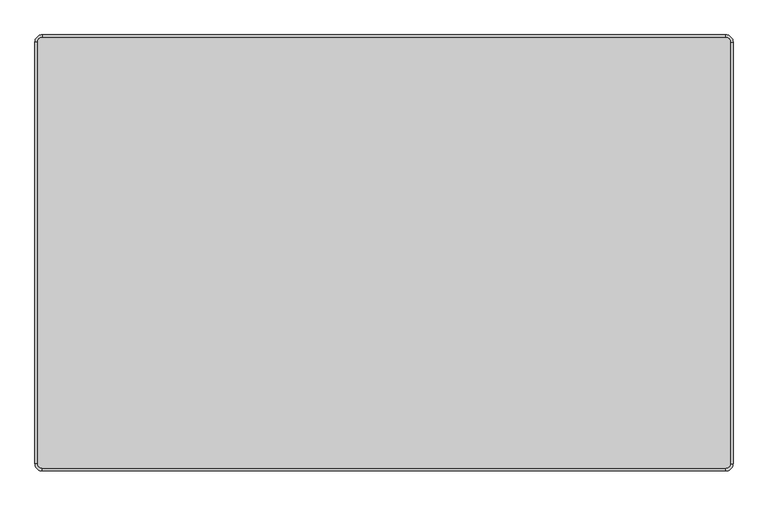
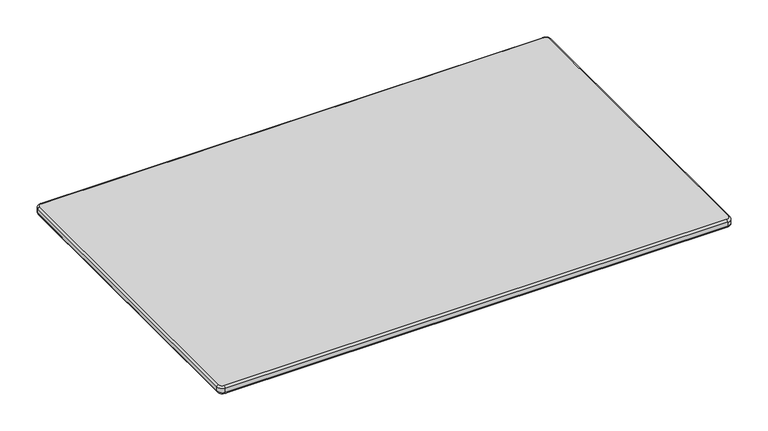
"""IFC4 building model written with IfcOpenShell, lengths in millimetres: furniture geometry, SSL-Childcraft_Outdoor-Table-Rectangle : 2161354."""

from ifc_helpers import new_model, si_unit, point, frame, origin, place, context, project, spatial, circle_curve, ellipse_curve, trimmed, source, transform, mapped, element, save
from ifc_brep_helpers import plane_surface, cylinder_surface, revolved_surface, advanced_brep


def furniture_69e445c5(model_context):
    return source(origin(), model_context, "Body", "AdvancedBrep", [
        advanced_brep(
        [(604.8375, 368.3, 508.0), (596.9, 376.2375, 508.0), (-596.9, 376.2375, 508.0), (-604.8375, 368.3, 508.0), (-604.8375, -368.3, 508.0), (-596.9, -376.2375, 508.0), (596.9, -376.2375, 508.0), (604.8375, -368.3, 508.0), (596.9, 376.2375, 488.95), (604.8375, 368.3, 488.95), (604.8375, -368.3, 488.95), (596.9, -376.2375, 488.95), (-596.9, -376.2375, 488.95), (-604.8375, -368.3, 488.95), (-604.8375, 368.3, 488.95), (-596.9, 376.2375, 488.95), (609.6, 368.3, 493.7125), (609.6, 368.3, 503.2375), (609.6, -368.3, 503.2375), (609.6, -368.3, 493.7125), (596.9, -381.0, 493.7125), (596.9, -381.0, 503.2375), (-596.9, -381.0, 503.2375), (-596.9, -381.0, 493.7125), (-609.6, -368.3, 503.2375), (-609.6, -368.3, 493.7125), (-609.6, 368.3, 503.2375), (-609.6, 368.3, 493.7125), (-596.9, 381.0, 493.7125), (-596.9, 381.0, 503.2375), (596.9, 381.0, 503.2375), (596.9, 381.0, 493.7125)],
        [
            (0, 1, circle_curve(frame((596.9, 368.3, 508.0), z_axis=(0.0, 0.0, 1.0), x_axis=(0.0, 1.0, 0.0)), 7.9375)),
            (1, 2),
            (2, 3, circle_curve(frame((-596.9, 368.3, 508.0), z_axis=(0.0, 0.0, 1.0), x_axis=(-1.0, 0.0, 0.0)), 7.9375)),
            (3, 4),
            (4, 5, circle_curve(frame((-596.9, -368.3, 508.0), z_axis=(0.0, 0.0, 1.0), x_axis=(0.0, -1.0, 0.0)), 7.9375)),
            (5, 6),
            (6, 7, circle_curve(frame((596.9, -368.3, 508.0), z_axis=(0.0, 0.0, 1.0), x_axis=(1.0, 0.0, 0.0)), 7.9375)),
            (7, 0),
            (8, 9, circle_curve(frame((596.9, 368.3, 488.95), z_axis=(0.0, 0.0, -1.0), x_axis=(0.0, 1.0, 0.0)), 7.9375)),
            (9, 10),
            (10, 11, circle_curve(frame((596.9, -368.3, 488.95), z_axis=(0.0, 0.0, -1.0), x_axis=(1.0, 0.0, 0.0)), 7.9375)),
            (11, 12),
            (12, 13, circle_curve(frame((-596.9, -368.3, 488.95), z_axis=(0.0, 0.0, -1.0), x_axis=(0.0, -1.0, 0.0)), 7.9375)),
            (13, 14),
            (14, 15, circle_curve(frame((-596.9, 368.3, 488.95), z_axis=(0.0, 0.0, -1.0), x_axis=(-1.0, 0.0, 0.0)), 7.9375)),
            (15, 8),
            (16, 17),
            (17, 18),
            (18, 19),
            (19, 16),
            (20, 21),
            (21, 22),
            (22, 23),
            (23, 20),
            (22, 24, circle_curve(frame((-596.9, -368.3, 503.2375), z_axis=(0.0, 0.0, -1.0), x_axis=(0.0, -1.0, 0.0)), 12.7)),
            (24, 25),
            (25, 23, circle_curve(frame((-596.9, -368.3, 493.7125), z_axis=(0.0, 0.0, 1.0), x_axis=(0.0, -1.0, 0.0)), 12.7)),
            (24, 26),
            (26, 27),
            (27, 25),
            (28, 29),
            (29, 30),
            (30, 31),
            (31, 28),
            (17, 30, circle_curve(frame((596.9, 368.3, 503.2375), z_axis=(0.0, 0.0, 1.0), x_axis=(0.0, 1.0, 0.0)), 12.7)),
            (30, 1, circle_curve(frame((596.9, 376.2375, 503.2375), z_axis=(1.0, 0.0, 0.0), x_axis=(0.0, 1.0, 0.0)), 4.7625)),
            (0, 17, circle_curve(frame((604.8375, 368.3, 503.2375), z_axis=(0.0, 1.0, 0.0), x_axis=(1.0, 0.0, 0.0)), 4.7625)),
            (16, 31, circle_curve(frame((596.9, 368.3, 493.7125), z_axis=(0.0, 0.0, 1.0), x_axis=(0.0, 1.0, 0.0)), 12.7)),
            (16, 9, circle_curve(frame((604.8375, 368.3, 493.7125), z_axis=(0.0, 1.0, 0.0), x_axis=(1.0, 0.0, 0.0)), 4.7625)),
            (8, 31, circle_curve(frame((596.9, 376.2375, 493.7125), z_axis=(1.0, 0.0, 0.0), x_axis=(0.0, 1.0, 0.0)), 4.7625)),
            (7, 18, circle_curve(frame((604.8375, -368.3, 503.2375), z_axis=(0.0, 1.0, 0.0), x_axis=(1.0, 0.0, 0.0)), 4.7625)),
            (19, 10, circle_curve(frame((604.8375, -368.3, 493.7125), z_axis=(0.0, 1.0, 0.0), x_axis=(1.0, 0.0, 0.0)), 4.7625)),
            (6, 21, circle_curve(frame((596.9, -376.2375, 503.2375), z_axis=(1.0, 0.0, 0.0), x_axis=(0.0, -1.0, 0.0)), 4.7625)),
            (21, 18, circle_curve(frame((596.9, -368.3, 503.2375), z_axis=(0.0, 0.0, 1.0), x_axis=(1.0, 0.0, 0.0)), 12.7)),
            (20, 19, circle_curve(frame((596.9, -368.3, 493.7125), z_axis=(0.0, 0.0, 1.0), x_axis=(1.0, 0.0, 0.0)), 12.7)),
            (20, 11, circle_curve(frame((596.9, -376.2375, 493.7125), z_axis=(1.0, 0.0, 0.0), x_axis=(0.0, -1.0, 0.0)), 4.7625)),
            (5, 22, circle_curve(frame((-596.9, -376.2375, 503.2375), z_axis=(1.0, 0.0, 0.0), x_axis=(0.0, -1.0, 0.0)), 4.7625)),
            (23, 12, circle_curve(frame((-596.9, -376.2375, 493.7125), z_axis=(1.0, 0.0, 0.0), x_axis=(0.0, -1.0, 0.0)), 4.7625)),
            (4, 24, circle_curve(frame((-604.8375, -368.3, 503.2375), z_axis=(0.0, -1.0, 0.0), x_axis=(-1.0, 0.0, 0.0)), 4.7625)),
            (25, 13, circle_curve(frame((-604.8375, -368.3, 493.7125), z_axis=(0.0, -1.0, 0.0), x_axis=(-1.0, 0.0, 0.0)), 4.7625)),
            (3, 26, circle_curve(frame((-604.8375, 368.3, 503.2375), z_axis=(0.0, -1.0, 0.0), x_axis=(-1.0, 0.0, 0.0)), 4.7625)),
            (27, 14, circle_curve(frame((-604.8375, 368.3, 493.7125), z_axis=(0.0, -1.0, 0.0), x_axis=(-1.0, 0.0, 0.0)), 4.7625)),
            (2, 29, circle_curve(frame((-596.9, 376.2375, 503.2375), z_axis=(-1.0, 0.0, 0.0), x_axis=(0.0, 1.0, 0.0)), 4.7625)),
            (29, 26, circle_curve(frame((-596.9, 368.3, 503.2375), z_axis=(0.0, 0.0, 1.0), x_axis=(-1.0, 0.0, 0.0)), 12.7)),
            (28, 27, circle_curve(frame((-596.9, 368.3, 493.7125), z_axis=(0.0, 0.0, 1.0), x_axis=(-1.0, 0.0, 0.0)), 12.7)),
            (28, 15, circle_curve(frame((-596.9, 376.2375, 493.7125), z_axis=(-1.0, 0.0, 0.0), x_axis=(0.0, 1.0, 0.0)), 4.7625)),
        ],
        [
            plane_surface(frame((-596.9, 371.475, 508.0), z_axis=(0.0, 0.0, 1.0), x_axis=(-1.0, 0.0, 0.0))),
            plane_surface(frame((-596.9, 371.475, 488.95), z_axis=(0.0, 0.0, -1.0), x_axis=(1.0, 0.0, 0.0))),
            plane_surface(frame((609.6, 368.3, 503.2375), z_axis=(1.0, 0.0, 0.0), x_axis=(0.0, -1.0, 0.0))),
            plane_surface(frame((596.9, -381.0, 503.2375), z_axis=(0.0, -1.0, 0.0), x_axis=(-1.0, 0.0, 0.0))),
            cylinder_surface(frame((-596.9, -368.3, 0.0), z_axis=(0.0, 0.0, -1.0), x_axis=(0.0, -1.0, 0.0)), 12.7),
            plane_surface(frame((-609.6, -368.3, 503.2375), z_axis=(-1.0, 0.0, 0.0), x_axis=(0.0, 1.0, 0.0))),
            plane_surface(frame((-596.9, 381.0, 503.2375), z_axis=(0.0, 1.0, 0.0), x_axis=(1.0, 0.0, 0.0))),
            revolved_surface(trimmed(ellipse_curve(frame((596.9, 376.2375, 503.2375), z_axis=(-1.0, 0.0, 0.0), x_axis=(0.0, 1.0, 0.0)), 4.7625, 4.7625), [point((596.9, 376.2375, 508.0))], [point((596.9, 381.0, 503.2375))], True, "CARTESIAN"), (596.9, 368.3, 0.0), (0.0, 0.0, -1.0)),
            cylinder_surface(frame((596.9, 368.3, 0.0), z_axis=(0.0, 0.0, -1.0), x_axis=(0.0, 1.0, 0.0)), 12.7),
            revolved_surface(trimmed(ellipse_curve(frame((596.9, 376.2375, 493.7125), z_axis=(-1.0, 0.0, 0.0), x_axis=(0.0, 1.0, 0.0)), 4.7625, 4.7625), [point((596.9, 381.0, 493.7125))], [point((596.9, 376.2375, 488.95))], True, "CARTESIAN"), (596.9, 368.3, 0.0), (0.0, 0.0, -1.0)),
            cylinder_surface(frame((604.8375, 368.3, 503.2375), z_axis=(0.0, 1.0, 0.0), x_axis=(1.0, 0.0, 0.0)), 4.7625),
            cylinder_surface(frame((604.8375, 368.3, 493.7125), z_axis=(0.0, 1.0, 0.0), x_axis=(1.0, 0.0, 0.0)), 4.7625),
            revolved_surface(trimmed(ellipse_curve(frame((604.8375, -368.3, 503.2375), z_axis=(0.0, 1.0, 0.0), x_axis=(1.0, 0.0, 0.0)), 4.7625, 4.7625), [point((604.8375, -368.3, 508.0))], [point((609.6, -368.3, 503.2375))], True, "CARTESIAN"), (596.9, -368.3, 0.0), (0.0, 0.0, -1.0)),
            cylinder_surface(frame((596.9, -368.3, 0.0), z_axis=(0.0, 0.0, -1.0), x_axis=(1.0, 0.0, 0.0)), 12.7),
            revolved_surface(trimmed(ellipse_curve(frame((604.8375, -368.3, 493.7125), z_axis=(0.0, 1.0, 0.0), x_axis=(1.0, 0.0, 0.0)), 4.7625, 4.7625), [point((609.6, -368.3, 493.7125))], [point((604.8375, -368.3, 488.95))], True, "CARTESIAN"), (596.9, -368.3, 0.0), (0.0, 0.0, -1.0)),
            cylinder_surface(frame((596.9, -376.2375, 503.2375), z_axis=(1.0, 0.0, 0.0), x_axis=(0.0, -1.0, 0.0)), 4.7625),
            cylinder_surface(frame((596.9, -376.2375, 493.7125), z_axis=(1.0, 0.0, 0.0), x_axis=(0.0, -1.0, 0.0)), 4.7625),
            revolved_surface(trimmed(ellipse_curve(frame((-596.9, -376.2375, 503.2375), z_axis=(1.0, 0.0, 0.0), x_axis=(0.0, -1.0, 0.0)), 4.7625, 4.7625), [point((-596.9, -376.2375, 508.0))], [point((-596.9, -381.0, 503.2375))], True, "CARTESIAN"), (-596.9, -368.3, 0.0), (0.0, 0.0, -1.0)),
            revolved_surface(trimmed(ellipse_curve(frame((-596.9, -376.2375, 493.7125), z_axis=(1.0, 0.0, 0.0), x_axis=(0.0, -1.0, 0.0)), 4.7625, 4.7625), [point((-596.9, -381.0, 493.7125))], [point((-596.9, -376.2375, 488.95))], True, "CARTESIAN"), (-596.9, -368.3, 0.0), (0.0, 0.0, -1.0)),
            cylinder_surface(frame((-604.8375, -368.3, 503.2375), z_axis=(0.0, -1.0, 0.0), x_axis=(-1.0, 0.0, 0.0)), 4.7625),
            cylinder_surface(frame((-604.8375, -368.3, 493.7125), z_axis=(0.0, -1.0, 0.0), x_axis=(-1.0, 0.0, 0.0)), 4.7625),
            revolved_surface(trimmed(ellipse_curve(frame((-604.8375, 368.3, 503.2375), z_axis=(0.0, -1.0, 0.0), x_axis=(-1.0, 0.0, 0.0)), 4.7625, 4.7625), [point((-604.8375, 368.3, 508.0))], [point((-609.6, 368.3, 503.2375))], True, "CARTESIAN"), (-596.9, 368.3, 0.0), (0.0, 0.0, -1.0)),
            cylinder_surface(frame((-596.9, 368.3, 0.0), z_axis=(0.0, 0.0, -1.0), x_axis=(-1.0, 0.0, 0.0)), 12.7),
            revolved_surface(trimmed(ellipse_curve(frame((-604.8375, 368.3, 493.7125), z_axis=(0.0, -1.0, 0.0), x_axis=(-1.0, 0.0, 0.0)), 4.7625, 4.7625), [point((-609.6, 368.3, 493.7125))], [point((-604.8375, 368.3, 488.95))], True, "CARTESIAN"), (-596.9, 368.3, 0.0), (0.0, 0.0, -1.0)),
            cylinder_surface(frame((-596.9, 376.2375, 503.2375), z_axis=(-1.0, 0.0, 0.0), x_axis=(0.0, 1.0, 0.0)), 4.7625),
            cylinder_surface(frame((-596.9, 376.2375, 493.7125), z_axis=(-1.0, 0.0, 0.0), x_axis=(0.0, 1.0, 0.0)), 4.7625),
        ],
        [
            (0, [[1, 2, 3, 4, 5, 6, 7, 8]]),
            (1, [[9, 10, 11, 12, 13, 14, 15, 16]]),
            (2, [[17, 18, 19, 20]]),
            (3, [[21, 22, 23, 24]]),
            (4, [[-23, 25, 26, 27]]),
            (5, [[-26, 28, 29, 30]]),
            (6, [[31, 32, 33, 34]]),
            (7, [[35, 36, -1, 37]]),
            (8, [[-17, 38, -33, -35]]),
            (9, [[-38, 39, -9, 40]]),
            (10, [[-18, -37, -8, 41]]),
            (11, [[-20, 42, -10, -39]]),
            (12, [[-41, -7, 43, 44]]),
            (13, [[-19, -44, -21, 45]]),
            (14, [[-42, -45, 46, -11]]),
            (15, [[-22, -43, -6, 47]]),
            (16, [[-24, 48, -12, -46]]),
            (17, [[-25, -47, -5, 49]]),
            (18, [[-27, 50, -13, -48]]),
            (19, [[-28, -49, -4, 51]]),
            (20, [[-30, 52, -14, -50]]),
            (21, [[-51, -3, 53, 54]]),
            (22, [[-29, -54, -31, 55]]),
            (23, [[-52, -55, 56, -15]]),
            (24, [[-32, -53, -2, -36]]),
            (25, [[-34, -40, -16, -56]]),
        ],
    ),
    ])


if __name__ == "__main__":
    model = new_model("IFC4")
    model_context = context("Model", 3, world=origin())
    ifc_project = project(units=[si_unit("LENGTHUNIT", "METRE", prefix="MILLI")], contexts=[model_context])
    site = spatial("IfcSite", under=ifc_project)
    building = spatial("IfcBuilding", under=site)
    placement = place(None, origin())
    furniture_shape = furniture_69e445c5(model_context)
    element("IfcFurniture", 1, ObjectType="SSL-Childcraft_Outdoor-Table-Rectangle : 2161354", at=placement, inside=building, context=model_context, shape_type="MappedRepresentation", body=[
        mapped(furniture_shape, transform((0.0, 0.0, 0.0), x_axis=(1.0, 0.0, 0.0), y_axis=(0.0, 1.0, 0.0), z_axis=(0.0, 0.0, 1.0))),
    ])
    save(model, "model.ifc")
